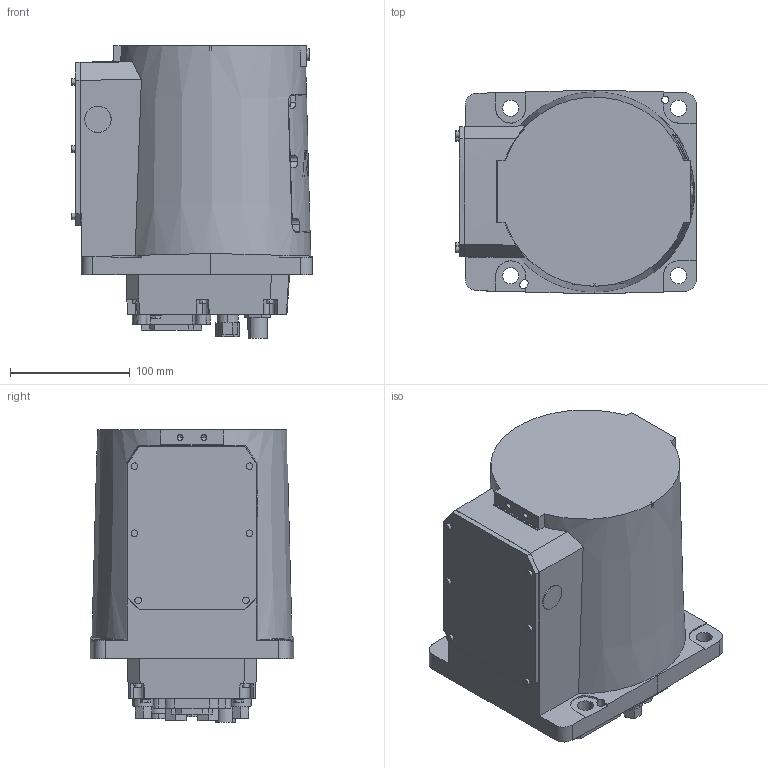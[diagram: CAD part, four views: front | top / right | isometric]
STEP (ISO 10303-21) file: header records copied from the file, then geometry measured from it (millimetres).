
FILE_DESCRIPTION (( 'STEP AP214' ), '1' );
FILE_NAME ('IRB920T_6kg-550-250-IP54-BTM_OmniCore_rev00_LINK0_CAD.step', '2021-10-28T02:21:02', ( '' ), ( '' ), 'SwSTEP 2.0', 'SolidWorks 2018', '' );
FILE_SCHEMA (( 'AUTOMOTIVE_DESIGN' ));
Length unit declared in the file: millimetre
Products named in the file (1): IRB920T_6kg-550-250-IP54-BTM_OmniCore_rev00_LINK0_CAD
Bounding box: 201 x 170 x 244.23 mm (x, y, z)
Volume: 5295244.3 mm3; surface area: 220846.1 mm2
Topology: 1 solids, 1 shells, 875 faces, 2287 edges, 1510 vertices
Faces by surface type: plane 512, bspline 192, cylinder 108, cone 63
Entity records: 33317 total; most frequent: CARTESIAN_POINT 13146, ORIENTED_EDGE 4558, DIRECTION 3331, EDGE_CURVE 2279, VERTEX_POINT 1510, VECTOR 1417, LINE 1417, EDGE_LOOP 991
